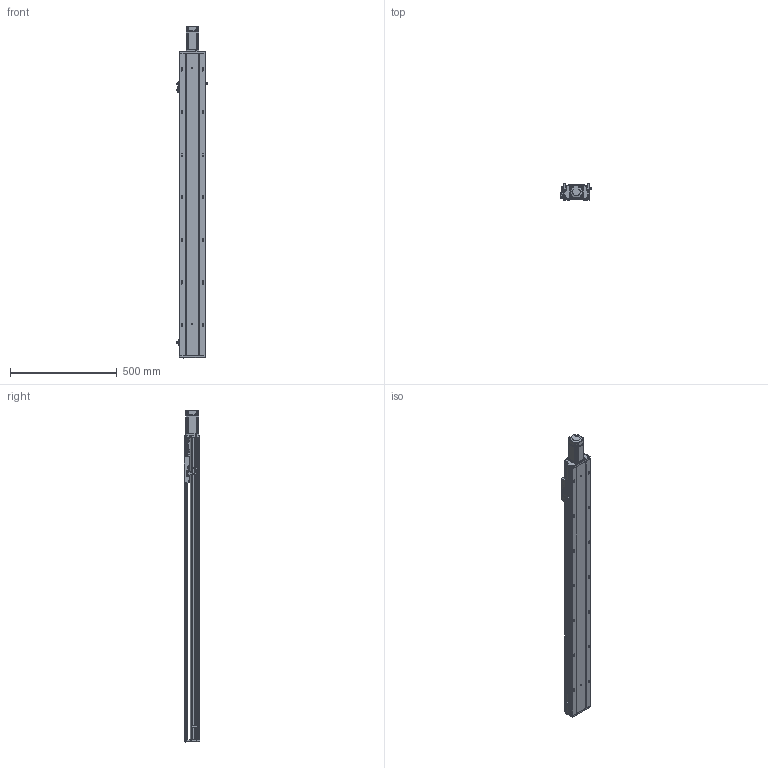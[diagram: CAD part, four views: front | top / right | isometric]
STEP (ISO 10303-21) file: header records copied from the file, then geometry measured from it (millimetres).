
FILE_DESCRIPTION (( 'STEP AP203' ), '1' );
FILE_NAME ('RYK120-L1610-S1150-M40-C3-MK.STEP', '2026-03-09T07:56:31', ( '' ), ( '' ), 'SwSTEP 2.0', 'SolidWorks 2016', '' );
FILE_SCHEMA (( 'CONFIG_CONTROL_DESIGN' ));
Length unit declared in the file: millimetre
Products named in the file (17): 滅袉蝶18-10; 滅袉蝶18-24; 15; RYK120-300-MK-奻裔啣-啞_1150; 侂狟400W侜督萇儂; RY120綴裔啣; 44-49-12-14; RYK120-300-MK-菁釱-啞_1150; 覜茼ん672; RY120QGB-1.8; RY120外置感应片(140共用）; RYK120-L1610-S1150-M40-C3-MK; RY120电机端支撑座-压铸加工-M5; CB╱T 3762-1996[锥形润滑油嘴1-ZM10×1]_1-ZM10×1; 2.10.1.C521-V1.0RY120臏賑輸16蹟譫-啞-JZZY-NRL-L1899; RYK170-薊粣ん芵隴裔啣; RY120-16螺母油路-集中注油组合
Assembly tree (21 placements, depth 3):
  RYK120-L1610-S1150-M40-C3-MK
    RYK120-300-MK-菁釱-啞_1150
    RYK120-300-MK-奻裔啣-啞_1150
    RY120綴裔啣
    滅袉蝶18-24  x2
    滅袉蝶18-10  x2
    覜茼ん672  x3
    RY120外置感应片(140共用）
    RY120QGB-1.8
    RY120-16螺母油路-集中注油组合
      2.10.1.C521-V1.0RY120臏賑輸16蹟譫-啞-JZZY-NRL-L1899
      CB╱T 3762-1996[锥形润滑油嘴1-ZM10×1]_1-ZM10×1  x2
    RY120电机端支撑座-压铸加工-M5
    RYK170-薊粣ん芵隴裔啣
    44-49-12-14
    侂狟400W侜督萇儂
      15
Bounding box: 145.7 x 73 x 1558.5 mm (x, y, z)
Volume: 4031565.5 mm3; surface area: 1443385.6 mm2
Topology: 23 solids, 23 shells, 2650 faces, 7342 edges, 4675 vertices
Faces by surface type: plane 1201, cylinder 1031, cone 291, bspline 127
Entity records: 87882 total; most frequent: CARTESIAN_POINT 25180, ORIENTED_EDGE 13136, DIRECTION 12115, EDGE_CURVE 6568, VERTEX_POINT 4287, AXIS2_PLACEMENT_3D 4174, LINE 3767, VECTOR 3767
